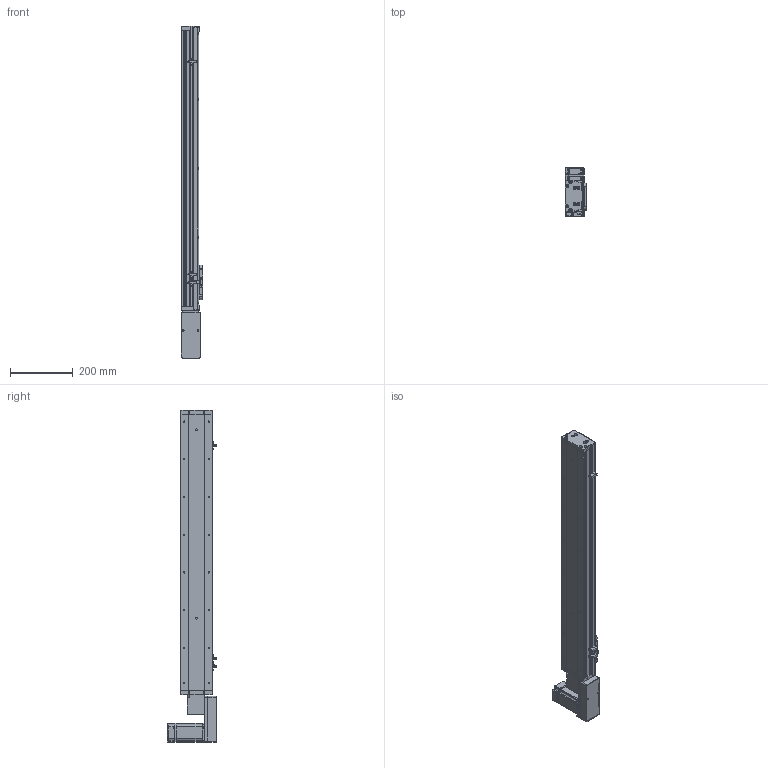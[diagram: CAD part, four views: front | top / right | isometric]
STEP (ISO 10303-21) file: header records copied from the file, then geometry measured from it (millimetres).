
FILE_DESCRIPTION (( 'STEP AP214' ), '1' );
FILE_NAME ('KSD100B-S700-MRB-CR.STEP', '2019-09-07T09:04:51', ( '微软用户' ), ( '微软中国' ), 'SwSTEP 2.0', 'SolidWorks 2014', '' );
FILE_SCHEMA (( 'AUTOMOTIVE_DESIGN' ));
Length unit declared in the file: millimetre
Products named in the file (15): MHMD042G1CA_2_03; 悵誘欶奻狟殏; 100宽马达安装板连板上下折丝杆同步带; U倰嫖萇EEㄜSX672; 感应片100宽全封闭; 100宽马达安装板同步带右; 100遵鎮湛假蚾啣蜊; 100宽端板同步带全封闭; 100宽滚珠螺姆安装板1防护罩; 100宽滚珠螺姆安装板1; 100遵裔啣揤啣; 100遵裔啣700俴最; 100宽侧板700行程同步带; 100宽底板全封闭700行程同步带; KSD100B-S700-MRB-CR
Assembly tree (18 placements, depth 2):
  KSD100B-S700-MRB-CR
    100宽底板全封闭700行程同步带
    100宽侧板700行程同步带  x2
    100遵裔啣700俴最
    100遵裔啣揤啣  x2
    100宽滚珠螺姆安装板1
    100宽滚珠螺姆安装板1防护罩
    100宽端板同步带全封闭
    100遵鎮湛假蚾啣蜊
    100宽马达安装板同步带右
    感应片100宽全封闭
    U倰嫖萇EEㄜSX672  x3
    100宽马达安装板连板上下折丝杆同步带
    悵誘欶奻狟殏
    MHMD042G1CA_2_03
Bounding box: 70 x 156.2 x 1057 mm (x, y, z)
Volume: 1969208.7 mm3; surface area: 884820.3 mm2
Topology: 17 solids, 18 shells, 1737 faces, 4844 edges, 3111 vertices
Faces by surface type: cylinder 773, plane 733, cone 211, bspline 20
Entity records: 61532 total; most frequent: CARTESIAN_POINT 9360, DIRECTION 8418, ORIENTED_EDGE 7780, EDGE_CURVE 3962, AXIS2_PLACEMENT_3D 3035, VERTEX_POINT 2629, VECTOR 2348, LINE 2348
